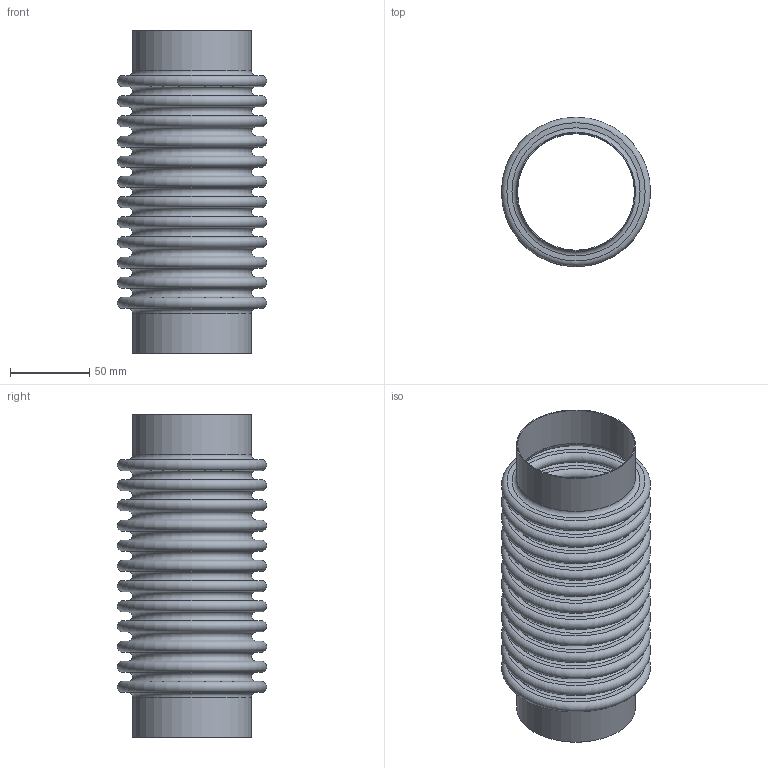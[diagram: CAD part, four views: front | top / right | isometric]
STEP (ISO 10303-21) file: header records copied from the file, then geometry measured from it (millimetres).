
FILE_DESCRIPTION(/* description */ ('STOCK BELLOWS: U.S-2.5-12-300L, 2.900 I.D., 3.700 O.D., 1 PLY, 24 GA (0.024 THICK), 12 CONS., 0.500 PITCH, 1.000 TANGENT. '),/* implementation_level */ '2;1');
FILE_NAME(/* name */ 'STOCK BELLOW - US-2.5-12-300L.stp',/* time_stamp */ '2026-07-21T13:20:59-05:00',/* author */ ('KennethB'),/* organization */ (''),/* preprocessor_version */ 'ST-DEVELOPER v20.1',/* originating_system */ 'Autodesk Inventor 2026',/* authorisation */ '');
FILE_SCHEMA (('AUTOMOTIVE_DESIGN { 1 0 10303 214 3 1 1 }'));
Length unit declared in the file: inch
Products named in the file (1): STOCK BELLOW - US-2.5-12-300L
Bounding box: 93.98 x 93.98 x 203.2 mm (x, y, z)
Volume: 57983.3 mm3; surface area: 191087.5 mm2
Topology: 3 solids, 3 shells, 108 faces, 162 edges, 109 vertices
Faces by surface type: plane 54, torus 50, cylinder 4
Full cylindrical faces by diameter (mm): 73.66 x2, 74.879 x2
Entity records: 2550 total; most frequent: DIRECTION 538, CARTESIAN_POINT 380, ORIENTED_EDGE 324, AXIS2_PLACEMENT_3D 267, EDGE_LOOP 162, EDGE_CURVE 162, CIRCLE 158, FACE_OUTER_BOUND 108
